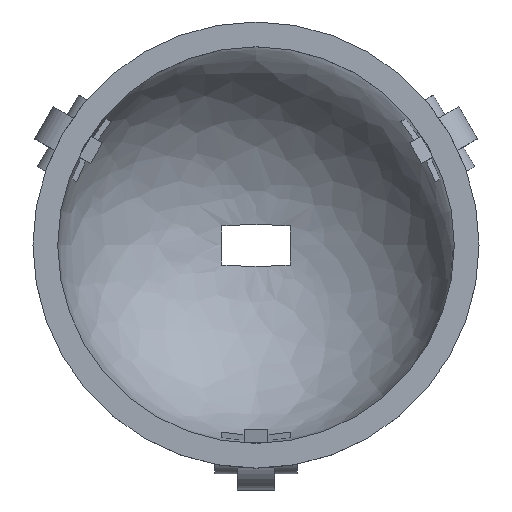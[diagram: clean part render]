
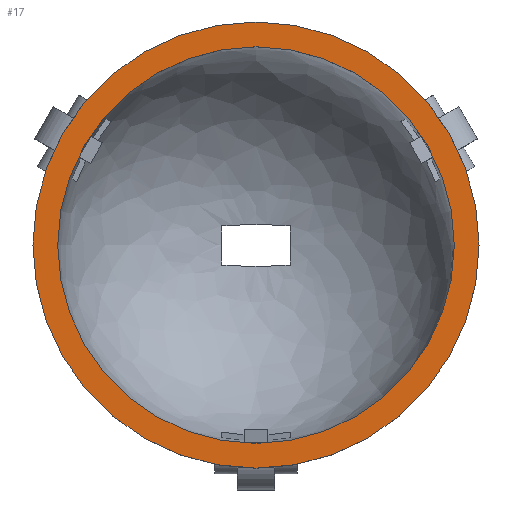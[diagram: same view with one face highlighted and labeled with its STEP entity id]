
A CAD part, top view. The second image highlights one B-rep face of the part: STEP entity #17.
In plain terms, the highlighted planar face has unit normal (0, 0, 1).
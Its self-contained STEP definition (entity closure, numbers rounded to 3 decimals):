
#17 = ADVANCED_FACE('',(#18,#54),#31,.T.);
#18 = FACE_BOUND('',#19,.F.);
#19 = EDGE_LOOP('',(#20));
#20 = ORIENTED_EDGE('',*,*,#21,.T.);
#21 = EDGE_CURVE('',#22,#22,#24,.T.);
#22 = VERTEX_POINT('',#23);
#23 = CARTESIAN_POINT('',(24.,0.,0.));
#24 = SURFACE_CURVE('',#25,(#30,#42),.PCURVE_S1.);
#25 = CIRCLE('',#26,24.);
#26 = AXIS2_PLACEMENT_3D('',#27,#28,#29);
#27 = CARTESIAN_POINT('',(0.,0.,0.));
#28 = DIRECTION('',(0.,0.,1.));
#29 = DIRECTION('',(1.,0.,-0.));
#30 = PCURVE('',#31,#36);
#31 = PLANE('',#32);
#32 = AXIS2_PLACEMENT_3D('',#33,#34,#35);
#33 = CARTESIAN_POINT('',(0.,0.,0.));
#34 = DIRECTION('',(0.,0.,1.));
#35 = DIRECTION('',(1.,0.,-0.));
#36 = DEFINITIONAL_REPRESENTATION('',(#37),#41);
#37 = CIRCLE('',#38,24.);
#38 = AXIS2_PLACEMENT_2D('',#39,#40);
#39 = CARTESIAN_POINT('',(0.,0.));
#40 = DIRECTION('',(1.,-0.));
#41 = ( GEOMETRIC_REPRESENTATION_CONTEXT(2) 
PARAMETRIC_REPRESENTATION_CONTEXT() REPRESENTATION_CONTEXT('2D SPACE',''
  ) );
#42 = PCURVE('',#43,#48);
#43 = CYLINDRICAL_SURFACE('',#44,24.);
#44 = AXIS2_PLACEMENT_3D('',#45,#46,#47);
#45 = CARTESIAN_POINT('',(0.,0.,-4.));
#46 = DIRECTION('',(0.,0.,1.));
#47 = DIRECTION('',(1.,0.,-0.));
#48 = DEFINITIONAL_REPRESENTATION('',(#49),#53);
#49 = LINE('',#50,#51);
#50 = CARTESIAN_POINT('',(0.,4.));
#51 = VECTOR('',#52,1.);
#52 = DIRECTION('',(1.,0.));
#53 = ( GEOMETRIC_REPRESENTATION_CONTEXT(2) 
PARAMETRIC_REPRESENTATION_CONTEXT() REPRESENTATION_CONTEXT('2D SPACE',''
  ) );
#54 = FACE_BOUND('',#55,.F.);
#55 = EDGE_LOOP('',(#56));
#56 = ORIENTED_EDGE('',*,*,#57,.F.);
#57 = EDGE_CURVE('',#58,#58,#60,.T.);
#58 = VERTEX_POINT('',#59);
#59 = CARTESIAN_POINT('',(27.,0.,0.));
#60 = SURFACE_CURVE('',#61,(#66,#73),.PCURVE_S1.);
#61 = CIRCLE('',#62,27.);
#62 = AXIS2_PLACEMENT_3D('',#63,#64,#65);
#63 = CARTESIAN_POINT('',(0.,0.,0.));
#64 = DIRECTION('',(0.,0.,1.));
#65 = DIRECTION('',(1.,0.,-0.));
#66 = PCURVE('',#31,#67);
#67 = DEFINITIONAL_REPRESENTATION('',(#68),#72);
#68 = CIRCLE('',#69,27.);
#69 = AXIS2_PLACEMENT_2D('',#70,#71);
#70 = CARTESIAN_POINT('',(0.,0.));
#71 = DIRECTION('',(1.,-0.));
#72 = ( GEOMETRIC_REPRESENTATION_CONTEXT(2) 
PARAMETRIC_REPRESENTATION_CONTEXT() REPRESENTATION_CONTEXT('2D SPACE',''
  ) );
#73 = PCURVE('',#74,#79);
#74 = CYLINDRICAL_SURFACE('',#75,27.);
#75 = AXIS2_PLACEMENT_3D('',#76,#77,#78);
#76 = CARTESIAN_POINT('',(0.,0.,0.));
#77 = DIRECTION('',(-0.,-0.,-1.));
#78 = DIRECTION('',(1.,0.,0.));
#79 = DEFINITIONAL_REPRESENTATION('',(#80),#84);
#80 = LINE('',#81,#82);
#81 = CARTESIAN_POINT('',(-0.,0.));
#82 = VECTOR('',#83,1.);
#83 = DIRECTION('',(-1.,0.));
#84 = ( GEOMETRIC_REPRESENTATION_CONTEXT(2) 
PARAMETRIC_REPRESENTATION_CONTEXT() REPRESENTATION_CONTEXT('2D SPACE',''
  ) );
